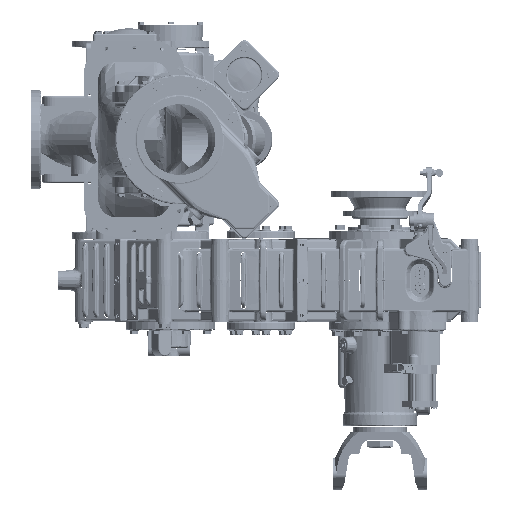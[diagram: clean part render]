
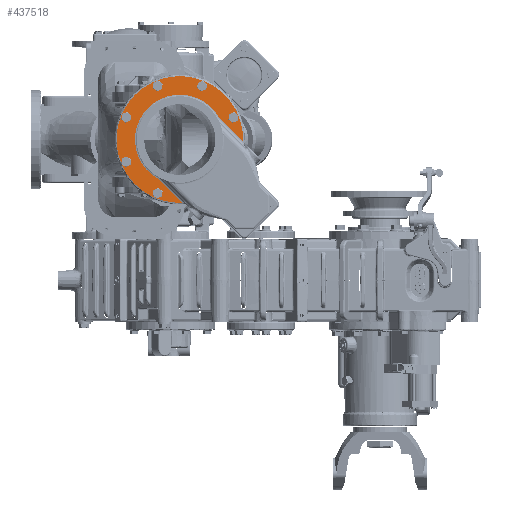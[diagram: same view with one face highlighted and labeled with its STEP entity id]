
A CAD part, left-side view. The second image highlights one B-rep face of the part: STEP entity #437518.
In plain terms, the highlighted planar face has unit normal (-1, 0, 0).
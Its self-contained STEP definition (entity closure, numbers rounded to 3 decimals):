
#430988=CARTESIAN_POINT('',(-33.69,16.177,
11.373));
#430989=DIRECTION('',(-1.,0.,0.));
#430990=DIRECTION('',(0.,-0.999,
-0.036));
#430991=AXIS2_PLACEMENT_3D('',#430988,#430989,#430990);
#431973=DIRECTION('',(0.,-0.706,
-0.708));
#431974=VECTOR('',#431973,2.766);
#431975=CARTESIAN_POINT('',(-33.69,13.014,
13.145));
#431976=LINE('',#431975,#431974);
#431977=DIRECTION('',(0.,0.706,0.708));
#431978=VECTOR('',#431977,2.766);
#431979=CARTESIAN_POINT('',(-33.69,16.,
6.256));
#431980=LINE('',#431979,#431978);
#431981=CARTESIAN_POINT('',(-33.69,11.842,
13.164));
#431982=DIRECTION('',(-1.,0.,0.));
#431983=DIRECTION('',(0.,0.001,-1.));
#431984=AXIS2_PLACEMENT_3D('',#431981,#431982,#431983);
#431986=CARTESIAN_POINT('',(-33.69,11.842,
13.164));
#431987=DIRECTION('',(-1.,0.,0.));
#431988=DIRECTION('',(0.,-0.001,1.));
#431989=AXIS2_PLACEMENT_3D('',#431986,#431987,#431988);
#431991=CARTESIAN_POINT('',(-33.69,14.378,
15.705));
#431992=DIRECTION('',(-1.,0.,0.));
#431993=DIRECTION('',(0.,-0.706,
-0.708));
#431994=AXIS2_PLACEMENT_3D('',#431991,#431992,#431993);
#431996=CARTESIAN_POINT('',(-33.69,14.378,
15.705));
#431997=DIRECTION('',(-1.,0.,0.));
#431998=DIRECTION('',(0.,0.706,0.708));
#431999=AXIS2_PLACEMENT_3D('',#431996,#431997,#431998);
#432001=CARTESIAN_POINT('',(-33.69,17.968,15.708));
#432002=DIRECTION('',(-1.,0.,0.));
#432003=DIRECTION('',(0.,-1.,
-0.001));
#432004=AXIS2_PLACEMENT_3D('',#432001,#432002,#432003);
#432006=CARTESIAN_POINT('',(-33.69,17.968,15.708));
#432007=DIRECTION('',(-1.,0.,0.));
#432008=DIRECTION('',(0.,1.,0.001));
#432009=AXIS2_PLACEMENT_3D('',#432006,#432007,#432008);
#432011=CARTESIAN_POINT('',(-33.69,20.508,
13.172));
#432012=DIRECTION('',(-1.,0.,0.));
#432013=DIRECTION('',(0.,-0.708,0.706));
#432014=AXIS2_PLACEMENT_3D('',#432011,#432012,#432013);
#432016=CARTESIAN_POINT('',(-33.69,20.508,
13.172));
#432017=DIRECTION('',(-1.,0.,0.));
#432018=DIRECTION('',(0.,0.708,-0.706));
#432019=AXIS2_PLACEMENT_3D('',#432016,#432017,#432018);
#432021=CARTESIAN_POINT('',(-33.69,20.511,
9.582));
#432022=DIRECTION('',(-1.,0.,0.));
#432023=DIRECTION('',(0.,-0.001,1.));
#432024=AXIS2_PLACEMENT_3D('',#432021,#432022,#432023);
#432026=CARTESIAN_POINT('',(-33.69,20.511,
9.582));
#432027=DIRECTION('',(-1.,0.,0.));
#432028=DIRECTION('',(0.,0.001,-1.));
#432029=AXIS2_PLACEMENT_3D('',#432026,#432027,#432028);
#432031=CARTESIAN_POINT('',(-33.69,17.975,
7.042));
#432032=DIRECTION('',(-1.,0.,0.));
#432033=DIRECTION('',(0.,0.706,0.708));
#432034=AXIS2_PLACEMENT_3D('',#432031,#432032,#432033);
#432036=CARTESIAN_POINT('',(-33.69,17.975,
7.042));
#432037=DIRECTION('',(-1.,0.,0.));
#432038=DIRECTION('',(0.,-0.706,
-0.708));
#432039=AXIS2_PLACEMENT_3D('',#432036,#432037,#432038);
#432669=CARTESIAN_POINT('',(-33.69,17.954,
8.214));
#432686=CARTESIAN_POINT('',(-33.69,16.177,
11.373));
#432687=DIRECTION('',(1.,0.,0.));
#432688=DIRECTION('',(0.,0.49,-0.872));
#432689=AXIS2_PLACEMENT_3D('',#432686,#432687,#432688);
#435077=CARTESIAN_POINT('',(-33.69,13.014,
13.145));
#435078=CARTESIAN_POINT('',(-33.69,11.06,
11.188));
#435079=VERTEX_POINT('',#435077);
#435080=VERTEX_POINT('',#435078);
#435100=VERTEX_POINT('',#432669);
#435103=CARTESIAN_POINT('',(-33.69,16.,
6.256));
#435104=VERTEX_POINT('',#435103);
#435386=CARTESIAN_POINT('',(-33.69,11.842,
13.375));
#435387=CARTESIAN_POINT('',(-33.69,11.842,
12.953));
#435388=VERTEX_POINT('',#435386);
#435389=VERTEX_POINT('',#435387);
#435394=CARTESIAN_POINT('',(-33.69,14.527,
15.854));
#435395=CARTESIAN_POINT('',(-33.69,14.229,
15.555));
#435396=VERTEX_POINT('',#435394);
#435397=VERTEX_POINT('',#435395);
#435402=CARTESIAN_POINT('',(-33.69,18.179,
15.708));
#435403=CARTESIAN_POINT('',(-33.69,17.757,
15.708));
#435404=VERTEX_POINT('',#435402);
#435405=VERTEX_POINT('',#435403);
#435410=CARTESIAN_POINT('',(-33.69,20.658,
13.023));
#435411=CARTESIAN_POINT('',(-33.69,20.359,
13.321));
#435412=VERTEX_POINT('',#435410);
#435413=VERTEX_POINT('',#435411);
#435418=CARTESIAN_POINT('',(-33.69,20.512,
9.372));
#435419=CARTESIAN_POINT('',(-33.69,20.511,
9.793));
#435420=VERTEX_POINT('',#435418);
#435421=VERTEX_POINT('',#435419);
#435426=CARTESIAN_POINT('',(-33.69,17.826,
6.893));
#435427=CARTESIAN_POINT('',(-33.69,18.125,
7.191));
#435428=VERTEX_POINT('',#435426);
#435429=VERTEX_POINT('',#435427);
#437469=CARTESIAN_POINT('',(-33.69,16.177,
11.373));
#437470=DIRECTION('',(1.,0.,0.));
#437471=DIRECTION('',(0.,-0.706,
-0.708));
#437472=AXIS2_PLACEMENT_3D('',#437469,#437470,#437471);
#437473=PLANE('',#437472);
#437475=ORIENTED_EDGE('',*,*,#437474,.F.);
#437477=ORIENTED_EDGE('',*,*,#437476,.F.);
#437478=ORIENTED_EDGE('',*,*,#437462,.F.);
#437479=ORIENTED_EDGE('',*,*,#435816,.F.);
#437480=EDGE_LOOP('',(#437475,#437477,#437478,#437479));
#437481=FACE_OUTER_BOUND('',#437480,.F.);
#437483=ORIENTED_EDGE('',*,*,#437482,.T.);
#437485=ORIENTED_EDGE('',*,*,#437484,.T.);
#437486=EDGE_LOOP('',(#437483,#437485));
#437487=FACE_BOUND('',#437486,.F.);
#437489=ORIENTED_EDGE('',*,*,#437488,.T.);
#437491=ORIENTED_EDGE('',*,*,#437490,.T.);
#437492=EDGE_LOOP('',(#437489,#437491));
#437493=FACE_BOUND('',#437492,.F.);
#437495=ORIENTED_EDGE('',*,*,#437494,.T.);
#437497=ORIENTED_EDGE('',*,*,#437496,.T.);
#437498=EDGE_LOOP('',(#437495,#437497));
#437499=FACE_BOUND('',#437498,.F.);
#437501=ORIENTED_EDGE('',*,*,#437500,.T.);
#437503=ORIENTED_EDGE('',*,*,#437502,.T.);
#437504=EDGE_LOOP('',(#437501,#437503));
#437505=FACE_BOUND('',#437504,.F.);
#437507=ORIENTED_EDGE('',*,*,#437506,.T.);
#437509=ORIENTED_EDGE('',*,*,#437508,.T.);
#437510=EDGE_LOOP('',(#437507,#437509));
#437511=FACE_BOUND('',#437510,.F.);
#437513=ORIENTED_EDGE('',*,*,#437512,.T.);
#437515=ORIENTED_EDGE('',*,*,#437514,.T.);
#437516=EDGE_LOOP('',(#437513,#437515));
#437517=FACE_BOUND('',#437516,.F.);
#437518=ADVANCED_FACE('',(#437481,#437487,#437493,#437499,#437505,#437511,
#437517),#437473,.F.);
#430992=CIRCLE('',#430991,5.12);
#431985=CIRCLE('',#431984,0.211);
#431990=CIRCLE('',#431989,0.211);
#431995=CIRCLE('',#431994,0.211);
#432000=CIRCLE('',#431999,0.211);
#432005=CIRCLE('',#432004,0.211);
#432010=CIRCLE('',#432009,0.211);
#432015=CIRCLE('',#432014,0.211);
#432020=CIRCLE('',#432019,0.211);
#432025=CIRCLE('',#432024,0.211);
#432030=CIRCLE('',#432029,0.211);
#432035=CIRCLE('',#432034,0.211);
#432040=CIRCLE('',#432039,0.211);
#432690=CIRCLE('',#432689,3.625);
#435816=EDGE_CURVE('',#435080,#435104,#430992,.T.);
#437462=EDGE_CURVE('',#435104,#435100,#431980,.T.);
#437474=EDGE_CURVE('',#435079,#435080,#431976,.T.);
#437476=EDGE_CURVE('',#435100,#435079,#432690,.T.);
#437482=EDGE_CURVE('',#435389,#435388,#431985,.T.);
#437484=EDGE_CURVE('',#435388,#435389,#431990,.T.);
#437488=EDGE_CURVE('',#435397,#435396,#431995,.T.);
#437490=EDGE_CURVE('',#435396,#435397,#432000,.T.);
#437494=EDGE_CURVE('',#435405,#435404,#432005,.T.);
#437496=EDGE_CURVE('',#435404,#435405,#432010,.T.);
#437500=EDGE_CURVE('',#435413,#435412,#432015,.T.);
#437502=EDGE_CURVE('',#435412,#435413,#432020,.T.);
#437506=EDGE_CURVE('',#435421,#435420,#432025,.T.);
#437508=EDGE_CURVE('',#435420,#435421,#432030,.T.);
#437512=EDGE_CURVE('',#435429,#435428,#432035,.T.);
#437514=EDGE_CURVE('',#435428,#435429,#432040,.T.);
